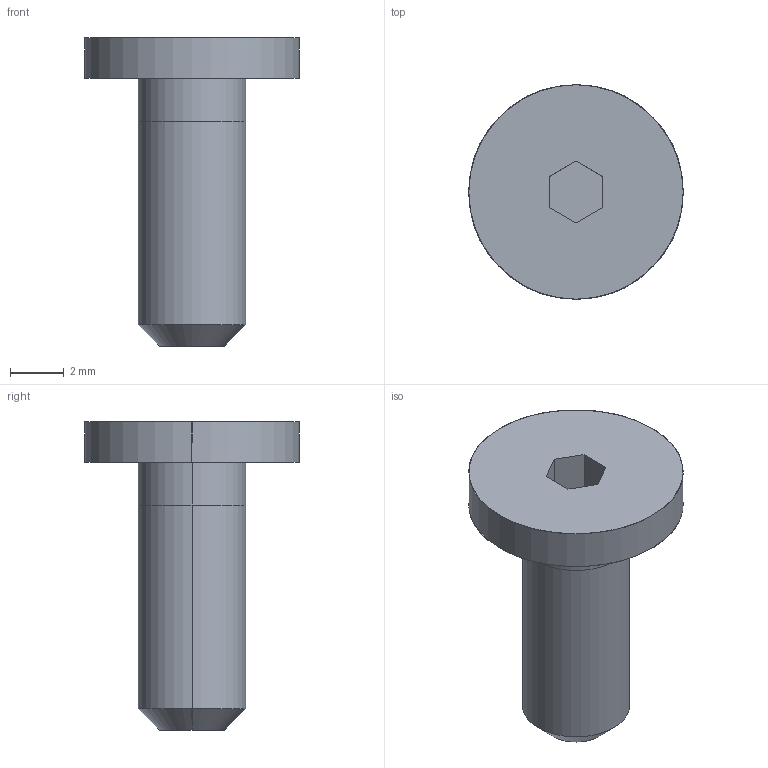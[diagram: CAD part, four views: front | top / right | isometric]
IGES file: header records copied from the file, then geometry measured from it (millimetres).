
Global section: file name: E:\UnigraphicsGraphicData\MISUMI_PRESS-PARTS\IGES\3d_cbss4-10_03486_r00.igs; native system: NX V5.0; preprocessor: UGS NX IGES V5.0; author: MISUMI; date: 20110105.160201; units: millimetre
Bounding box: 8 x 8 x 11.5 mm (x, y, z)
Surface area: 274.8 mm2 (no closed solid volume)
Topology: 0 solids, 0 shells, 18 faces, 100 edges, 100 vertices
Faces by surface type: bspline 18
